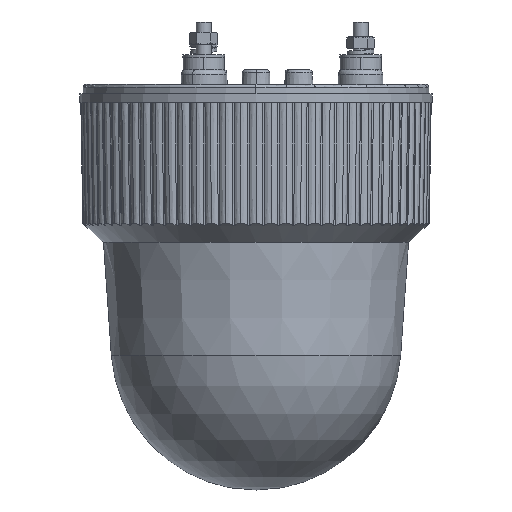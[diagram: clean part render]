
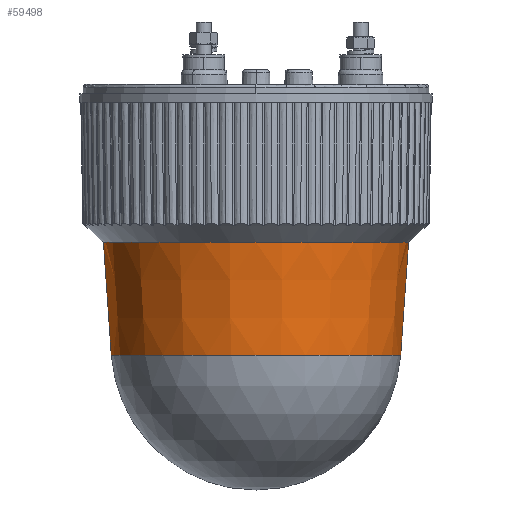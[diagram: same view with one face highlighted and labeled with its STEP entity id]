
A CAD part, front view. The second image highlights one B-rep face of the part: STEP entity #59498.
In plain terms, the highlighted conical face has half-angle 4 degrees and reference radius 49.699 mm.
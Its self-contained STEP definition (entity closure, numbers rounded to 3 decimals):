
#17995=CARTESIAN_POINT('',(0.,0.,-52.8));
#17996=DIRECTION('',(0.,0.,-1.));
#17997=DIRECTION('',(1.,0.,0.));
#17998=AXIS2_PLACEMENT_3D('',#17995,#17996,#17997);
#20782=DIRECTION('',(-0.07,0.,
-0.998));
#20783=VECTOR('',#20782,37.775);
#20784=CARTESIAN_POINT('',(51.017,0.,-52.8));
#20785=LINE('',#20784,#20783);
#20786=DIRECTION('',(-0.07,0.,0.998));
#20787=VECTOR('',#20786,37.775);
#20788=CARTESIAN_POINT('',(-48.382,0.,-90.483));
#20789=LINE('',#20788,#20787);
#20805=CARTESIAN_POINT('',(0.,0.,-90.483));
#20806=DIRECTION('',(0.,0.,1.));
#20807=DIRECTION('',(-1.,0.,0.));
#20808=AXIS2_PLACEMENT_3D('',#20805,#20806,#20807);
#24294=CARTESIAN_POINT('',(-51.017,0.,-52.8));
#24295=VERTEX_POINT('',#24294);
#24296=CARTESIAN_POINT('',(51.017,0.,-52.8));
#24297=VERTEX_POINT('',#24296);
#24457=CARTESIAN_POINT('',(48.382,0.,
-90.483));
#24458=VERTEX_POINT('',#24457);
#24459=CARTESIAN_POINT('',(-48.382,0.,-90.483));
#24460=VERTEX_POINT('',#24459);
#59484=CARTESIAN_POINT('',(0.,0.,-71.642));
#59485=DIRECTION('',(0.,0.,1.));
#59486=DIRECTION('',(-1.,0.,0.));
#59487=AXIS2_PLACEMENT_3D('',#59484,#59485,#59486);
#59488=CONICAL_SURFACE('',#59487,49.699,4.);
#59490=ORIENTED_EDGE('',*,*,#59489,.T.);
#59492=ORIENTED_EDGE('',*,*,#59491,.F.);
#59494=ORIENTED_EDGE('',*,*,#59493,.T.);
#59495=ORIENTED_EDGE('',*,*,#56579,.F.);
#59496=EDGE_LOOP('',(#59490,#59492,#59494,#59495));
#59497=FACE_OUTER_BOUND('',#59496,.F.);
#59498=ADVANCED_FACE('',(#59497),#59488,.T.);
#17999=CIRCLE('',#17998,51.017);
#20809=CIRCLE('',#20808,48.382);
#56579=EDGE_CURVE('',#24297,#24295,#17999,.T.);
#59489=EDGE_CURVE('',#24297,#24458,#20785,.T.);
#59491=EDGE_CURVE('',#24460,#24458,#20809,.T.);
#59493=EDGE_CURVE('',#24460,#24295,#20789,.T.);
